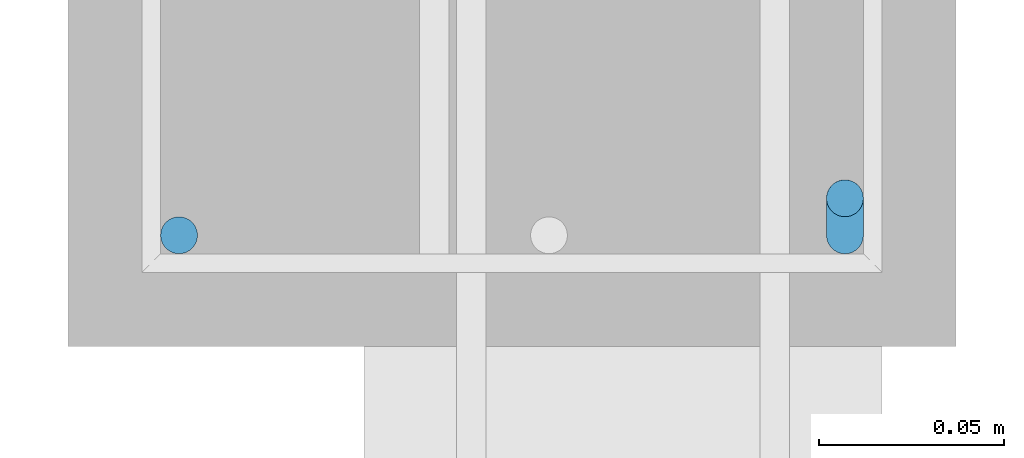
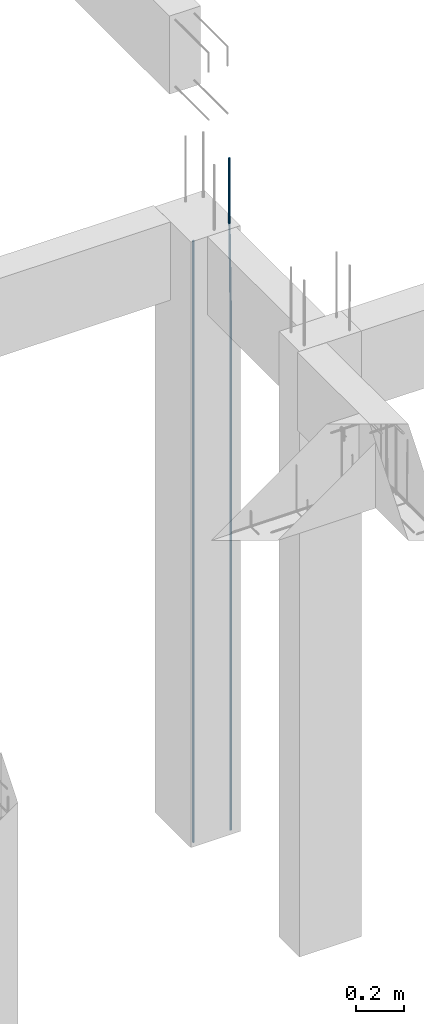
# One storey, part 84 of 236: 2 reinforcing bars.
"""IFC4 building model written with IfcOpenShell, lengths in centimetres."""

from ifc_helpers import new_model, entity, si_unit, derived_unit, frame, origin_with_axes, place, context, project, spatial, element, save


model = new_model("IFC4")

# Units and contexts
model_context = context("Model", 3, precision=1e-05, world=origin_with_axes(), identifier="Body")
ifc_project = project(units=[si_unit("LENGTHUNIT", "METRE", prefix="CENTI"), si_unit("VOLUMEUNIT", "CUBIC_METRE"), si_unit("AREAUNIT", "SQUARE_METRE"), si_unit("POWERUNIT", "WATT"), si_unit("LUMINOUSFLUXUNIT", "LUMEN"), si_unit("ELECTRICCURRENTUNIT", "AMPERE"), si_unit("PRESSUREUNIT", "PASCAL", prefix="KILO"), si_unit("MASSUNIT", "GRAM", prefix="KILO"), si_unit("PLANEANGLEUNIT", "RADIAN"), derived_unit("VOLUMETRICFLOWRATEUNIT", [(si_unit("LENGTHUNIT", "METRE"), 3), (si_unit("TIMEUNIT", "SECOND"), -1)])], contexts=[model_context])

# Site, building, storey
site_placement = place(None, frame((-4000.0, 0.0, 0.0), z_axis=(0.0, 0.0, 1.0), x_axis=(1.0, 0.0, 0.0)))
site = spatial("IfcSite", under=ifc_project, at=site_placement, Name="PADRÃO")
building_placement = place(site_placement, frame((0.0, 0.0, -14.0)))
building = spatial("IfcBuilding", under=site, at=building_placement, Name="CRECHE PRÉ-ESCOLA TIPO 2")
placement_1 = place(building_placement, origin_with_axes())
placement_2 = place(placement_1, frame((0.0, 0.0, 30.0), z_axis=(0.0, 0.0, 1.0), x_axis=(1.0, 0.0, 0.0)))
storey_placement = place(placement_2, frame((0.0, 0.0, 310.0), z_axis=(0.0, 0.0, 1.0), x_axis=(1.0, 0.0, 0.0)))
storey = spatial("IfcBuildingStorey", under=building, at=storey_placement, Name="TERREO", CompositionType="ELEMENT", Elevation=326.0)

# Reinforcing bars
reinforcing_bar_1_placement = place(storey_placement, frame((3154.02, 1902.02, 33.3573001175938), z_axis=(0.0, 0.0, 1.0), x_axis=(1.0, 0.0, 0.0)))
element("IfcReinforcingBar", 1, at=reinforcing_bar_1_placement, inside=storey, Name="P92 - Longitudinal", BarLength=0.0, CrossSectionArea=7.853981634e-05, NominalDiameter=1.0, PredefinedType="MAIN", context=model_context, shape_type="AdvancedSweptSolid", body=[
    entity("IfcSweptDiskSolid", entity("IfcCompositeCurve", [entity("IfcCompositeCurveSegment", "CONTINUOUS", True, entity("IfcPolyline", [entity("IfcCartesianPoint", [0.0, -0.5, -343.357300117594]), entity("IfcCartesianPoint", [0.0, -0.5, -73.3573001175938])])), entity("IfcCompositeCurveSegment", "CONTINUOUS", True, entity("IfcPolyline", [entity("IfcCartesianPoint", [0.0, -0.5, -73.3573001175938]), entity("IfcCartesianPoint", [0.0, 0.5, -33.3573001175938])])), entity("IfcCompositeCurveSegment", "CONTINUOUS", True, entity("IfcPolyline", [entity("IfcCartesianPoint", [0.0, 0.5, -33.3573001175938]), entity("IfcCartesianPoint", [0.0, 0.5, 0.0])]))], False), 0.5),
])
reinforcing_bar_2_placement = place(storey_placement, frame((3136.02, 1901.52, -2.0), z_axis=(0.0, 0.0, 1.0), x_axis=(1.0, 0.0, 0.0)))
element("IfcReinforcingBar", 2, at=reinforcing_bar_2_placement, inside=storey, Name="P92 - Longitudinal", BarLength=0.0, CrossSectionArea=7.853981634e-05, NominalDiameter=1.0, PredefinedType="MAIN", context=model_context, shape_type="AdvancedSweptSolid", body=[
    entity("IfcSweptDiskSolid", entity("IfcCompositeCurve", [entity("IfcCompositeCurveSegment", "CONTINUOUS", True, entity("IfcPolyline", [entity("IfcCartesianPoint", [0.0, 0.0, -308.0]), entity("IfcCartesianPoint", [0.0, 0.0, 0.0])]))], False), 0.5),
])

save(model, "model.ifc")
